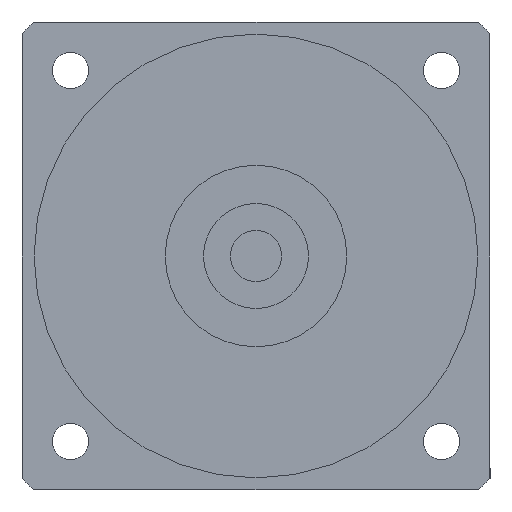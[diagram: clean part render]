
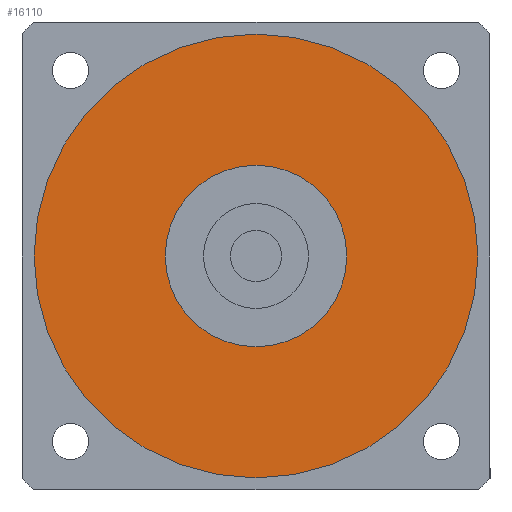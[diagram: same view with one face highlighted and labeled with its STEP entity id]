
A CAD part, left-side view. The second image highlights one B-rep face of the part: STEP entity #16110.
In plain terms, the highlighted planar face has unit normal (-1, 0, 0) as drawn and (0, 0, -1) by its records, which use the part's own axes.
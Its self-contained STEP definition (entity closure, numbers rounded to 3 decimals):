
#15680=CARTESIAN_POINT('',(0.,0.,
-113.5));
#15690=DIRECTION('',(0.,0.,1.));
#15700=DIRECTION('',(-1.,0.,0.));
#15710=AXIS2_PLACEMENT_3D('',#15680,#15690,#15700);
#15720=PLANE('',#15710);
#15730=CARTESIAN_POINT('',(0.,0.,
-113.5));
#15740=DIRECTION('',(0.,0.,1.));
#15750=DIRECTION('',(0.,-1.,0.));
#15760=AXIS2_PLACEMENT_3D('',#15730,#15740,#15750);
#15770=CIRCLE('',#15760,55.);
#15780=CARTESIAN_POINT('',(0.,-55.,-113.5));
#15790=VERTEX_POINT('',#15780);
#15800=CARTESIAN_POINT('',(55.,0.,-113.5));
#15810=VERTEX_POINT('',#15800);
#15820=EDGE_CURVE('',#15790,#15810,#15770,.T.);
#15830=ORIENTED_EDGE('',*,*,#15820,.F.);
#15840=CARTESIAN_POINT('',(-55.,0.,-113.5));
#15850=VERTEX_POINT('',#15840);
#15860=EDGE_CURVE('',#15810,#15850,#15770,.T.);
#15870=ORIENTED_EDGE('',*,*,#15860,.F.);
#15880=EDGE_CURVE('',#15850,#15790,#15770,.T.);
#15890=ORIENTED_EDGE('',*,*,#15880,.F.);
#15900=EDGE_LOOP('',(#15890,#15870,#15830));
#15910=FACE_OUTER_BOUND('',#15900,.T.);
#15920=CARTESIAN_POINT('',(0.,0.,
-113.5));
#15930=DIRECTION('',(0.,0.,1.));
#15940=DIRECTION('',(0.,-1.,0.));
#15950=AXIS2_PLACEMENT_3D('',#15920,#15930,#15940);
#15960=CIRCLE('',#15950,22.5);
#15970=CARTESIAN_POINT('',(22.5,0.,-113.5));
#15980=VERTEX_POINT('',#15970);
#15990=CARTESIAN_POINT('',(-22.5,0.,-113.5));
#16000=VERTEX_POINT('',#15990);
#16010=EDGE_CURVE('',#15980,#16000,#15960,.T.);
#16020=ORIENTED_EDGE('',*,*,#16010,.T.);
#16030=CARTESIAN_POINT('',(0.,-22.5,-113.5));
#16040=VERTEX_POINT('',#16030);
#16050=EDGE_CURVE('',#16040,#15980,#15960,.T.);
#16060=ORIENTED_EDGE('',*,*,#16050,.T.);
#16070=EDGE_CURVE('',#16000,#16040,#15960,.T.);
#16080=ORIENTED_EDGE('',*,*,#16070,.T.);
#16090=EDGE_LOOP('',(#16080,#16060,#16020));
#16100=FACE_BOUND('',#16090,.T.);
#16110=ADVANCED_FACE('',(#15910,#16100),#15720,.F.);
